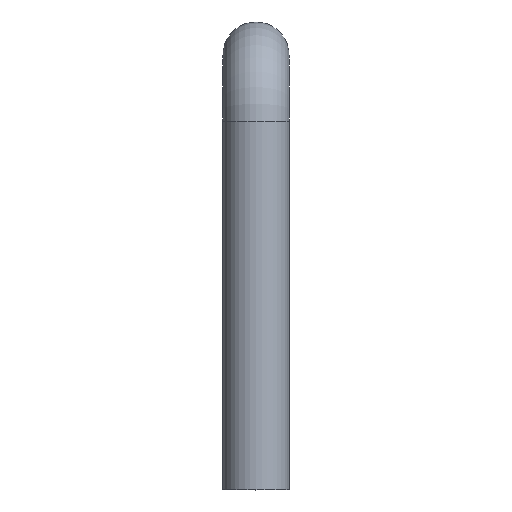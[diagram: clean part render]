
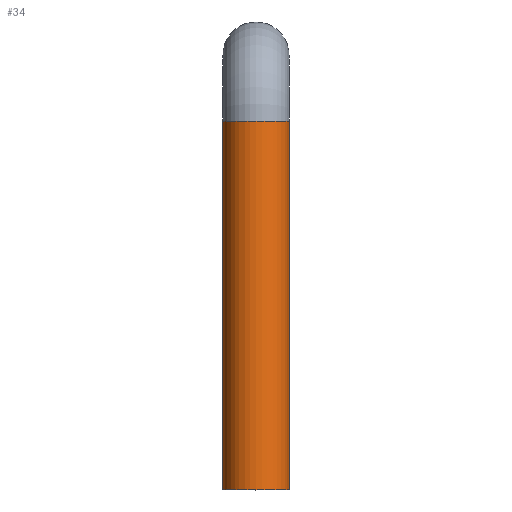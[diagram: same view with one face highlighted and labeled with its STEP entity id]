
A CAD part, left-side view. The second image highlights one B-rep face of the part: STEP entity #34.
In plain terms, the highlighted cylindrical face has radius 0.3 mm (diameter 0.6 mm), a full revolution.
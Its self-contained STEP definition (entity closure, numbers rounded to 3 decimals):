
#21 = EDGE_CURVE('',#22,#22,#24,.T.);
#22 = VERTEX_POINT('',#23);
#23 = CARTESIAN_POINT('',(0.3,0.,-3.));
#24 = CIRCLE('',#25,0.3);
#25 = AXIS2_PLACEMENT_3D('',#26,#27,#28);
#26 = CARTESIAN_POINT('',(0.,0.,-3.));
#27 = DIRECTION('',(0.,0.,1.));
#28 = DIRECTION('',(1.,0.,0.));
#34 = ADVANCED_FACE('',(#35),#54,.T.);
#35 = FACE_BOUND('',#36,.T.);
#36 = EDGE_LOOP('',(#37,#45,#52,#53));
#37 = ORIENTED_EDGE('',*,*,#38,.T.);
#38 = EDGE_CURVE('',#22,#39,#41,.T.);
#39 = VERTEX_POINT('',#40);
#40 = CARTESIAN_POINT('',(0.3,0.,0.35));
#41 = LINE('',#42,#43);
#42 = CARTESIAN_POINT('',(0.3,0.,-3.));
#43 = VECTOR('',#44,1.);
#44 = DIRECTION('',(0.,0.,1.));
#45 = ORIENTED_EDGE('',*,*,#46,.F.);
#46 = EDGE_CURVE('',#39,#39,#47,.T.);
#47 = CIRCLE('',#48,0.3);
#48 = AXIS2_PLACEMENT_3D('',#49,#50,#51);
#49 = CARTESIAN_POINT('',(0.,0.,0.35));
#50 = DIRECTION('',(0.,0.,1.));
#51 = DIRECTION('',(1.,0.,0.));
#52 = ORIENTED_EDGE('',*,*,#38,.F.);
#53 = ORIENTED_EDGE('',*,*,#21,.T.);
#54 = CYLINDRICAL_SURFACE('',#55,0.3);
#55 = AXIS2_PLACEMENT_3D('',#56,#57,#58);
#56 = CARTESIAN_POINT('',(0.,0.,-3.));
#57 = DIRECTION('',(0.,0.,1.));
#58 = DIRECTION('',(1.,0.,0.));
